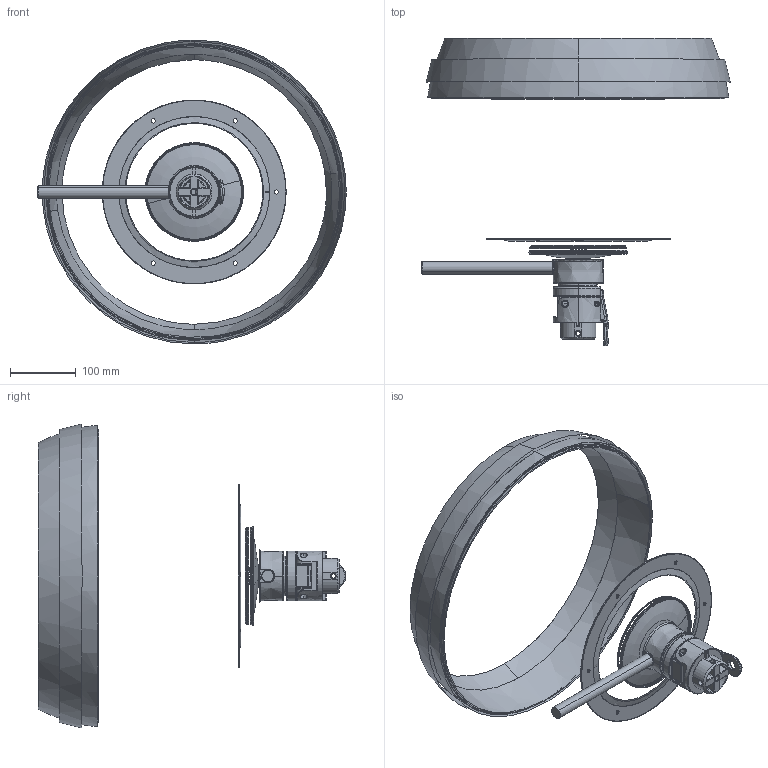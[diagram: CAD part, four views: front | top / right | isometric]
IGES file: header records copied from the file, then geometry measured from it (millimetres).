
Start section: SolidWorks IGES file using analytic representation for surfaces
Bounding box: 470.26 x 468.53 x 463.26 mm (x, y, z)
Surface area: 7891976.5 mm2 (no closed solid volume)
Topology: 0 solids, 0 shells, 1625 faces, 18437 edges, 18340 vertices
Faces by surface type: revolution 886, bspline 739
